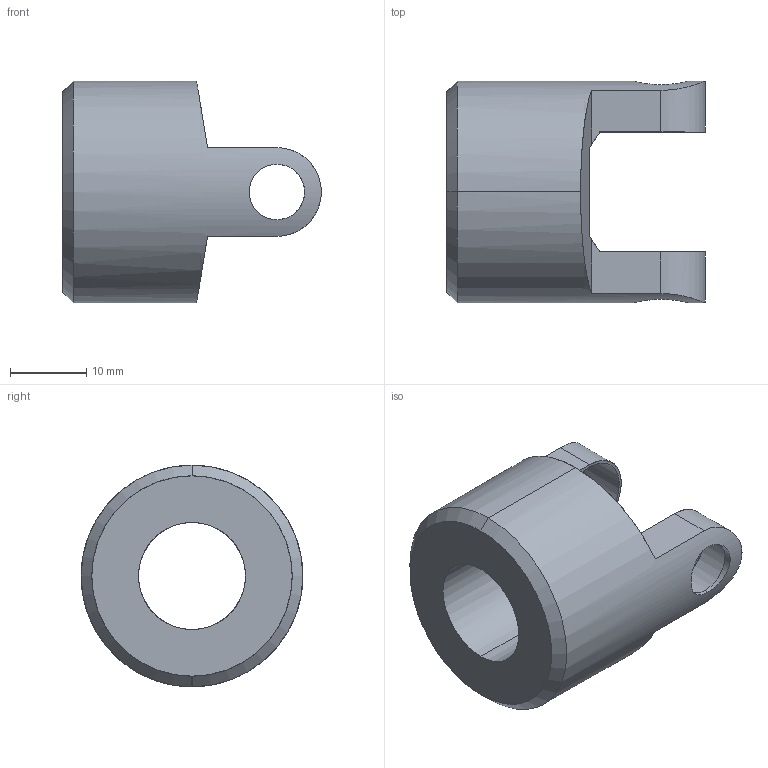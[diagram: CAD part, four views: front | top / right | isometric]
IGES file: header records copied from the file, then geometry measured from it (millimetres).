
Start section: SolidWorks IGES FILE using analytic representation for surfaces
Global section: file name: D:\Jan\Honk\63122900Gelenk14\Gelenk_01.IGS; native system: SolidWorks 2004 by SolidWorks Corporation; preprocessor: Version 5.3; author: wintjenj; date: 050908.125543; units: millimetre
Bounding box: 33.8 x 29 x 29 mm (x, y, z)
Surface area: 4095.3 mm2 (no closed solid volume)
Topology: 0 solids, 0 shells, 25 faces, 504 edges, 504 vertices
Faces by surface type: bspline 13, revolution 12
